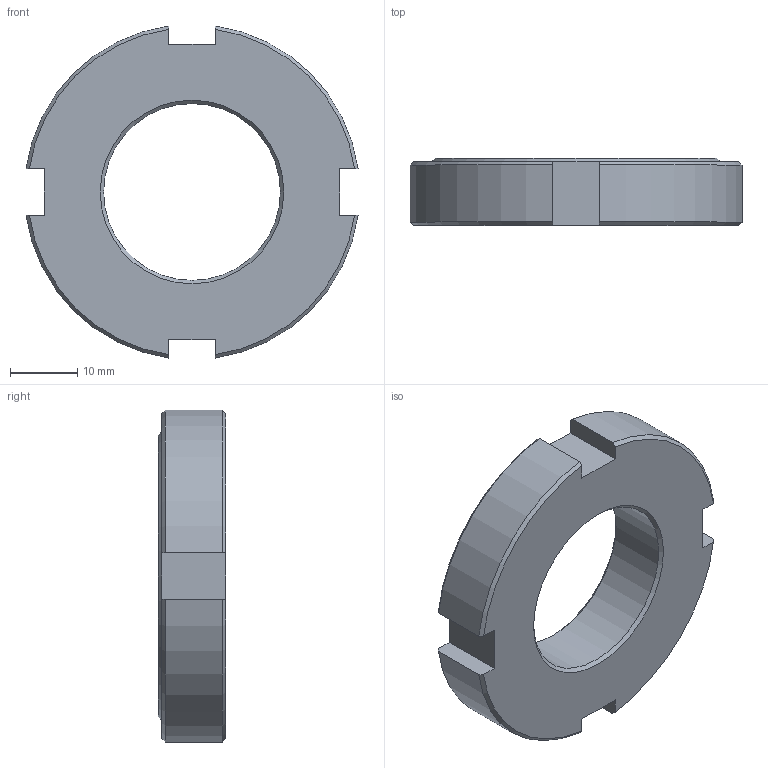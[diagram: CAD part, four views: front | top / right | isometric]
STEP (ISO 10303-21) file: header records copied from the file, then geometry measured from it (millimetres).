
FILE_DESCRIPTION(/* description */ (''),/* implementation_level */ '2;1');
FILE_NAME(/* name */ 'C:\Users\Jefferson\Desktop\Biblioteca Pro Nitro 2024\Flanges\PNB-24-XXX\PNB-24-M28.stp',/* time_stamp */ '2024-01-29T14:36:25-03:00',/* author */ ('Jefferson'),/* organization */ (''),/* preprocessor_version */ 'ST-DEVELOPER v18.1',/* originating_system */ 'Autodesk Inventor 2021',/* authorisation */ '');
FILE_SCHEMA (('AUTOMOTIVE_DESIGN { 1 0 10303 214 3 1 1 }'));
Length unit declared in the file: millimetre
Products named in the file (1): PNB-24-M28
Bounding box: 49.51 x 10 x 49.51 mm (x, y, z)
Volume: 13067.7 mm3; surface area: 5112.6 mm2
Topology: 1 solids, 1 shells, 187 faces, 503 edges, 335 vertices
Faces by surface type: plane 108, bspline 63, cone 11, cylinder 5
Full cylindrical faces by diameter (mm): 26.376 x1
Entity records: 6159 total; most frequent: CARTESIAN_POINT 1877, ORIENTED_EDGE 1006, DIRECTION 634, EDGE_CURVE 503, LINE 338, VECTOR 338, VERTEX_POINT 335, EDGE_LOOP 206
